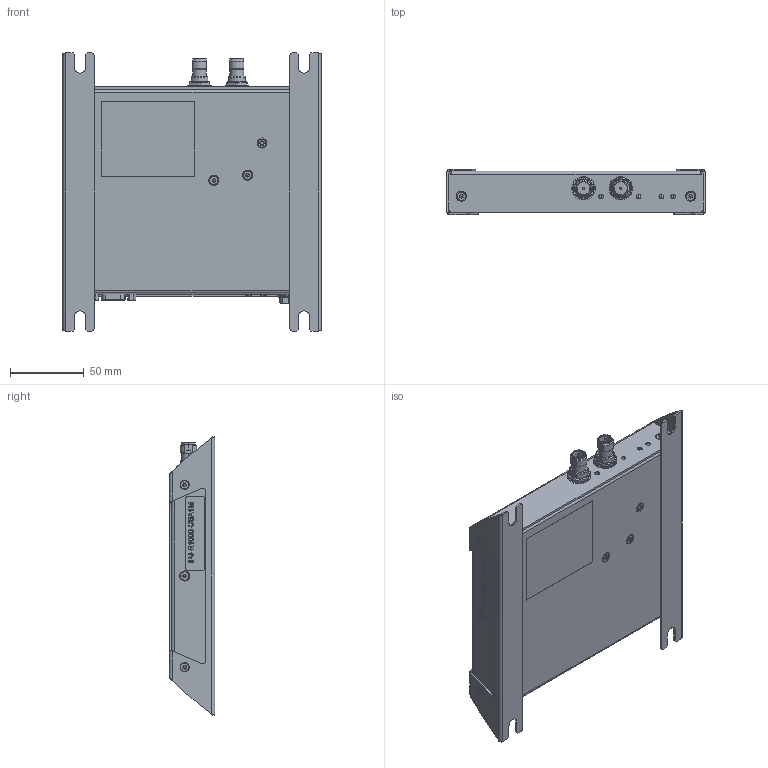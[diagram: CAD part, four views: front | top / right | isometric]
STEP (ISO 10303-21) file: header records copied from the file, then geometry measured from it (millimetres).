
FILE_DESCRIPTION (( 'STEP AP203' ), '1' );
FILE_NAME ('8783.330-200P.STEP', '2015-04-03T15:15:29', ( '' ), ( '' ), 'SwSTEP 2.0', 'SolidWorks 2014', '' );
FILE_SCHEMA (( 'CONFIG_CONTROL_DESIGN' ));
Products named in the file (1): 8783.330-200P
Bounding box: 175.4 x 30.9 x 189 mm (x, y, z)
Surface area: 175996.8 mm2 (no closed solid volume)
Topology: 0 solids, 264 shells, 1424 faces, 7853 edges, 6578 vertices
Faces by surface type: plane 827, cylinder 380, cone 134, bspline 71, sphere 11, torus 1
Entity records: 93351 total; most frequent: CARTESIAN_POINT 36114, DIRECTION 10199, ORIENTED_EDGE 9985, EDGE_CURVE 7829, VERTEX_POINT 6570, VECTOR 5219, LINE 5219, AXIS2_PLACEMENT_3D 2490
